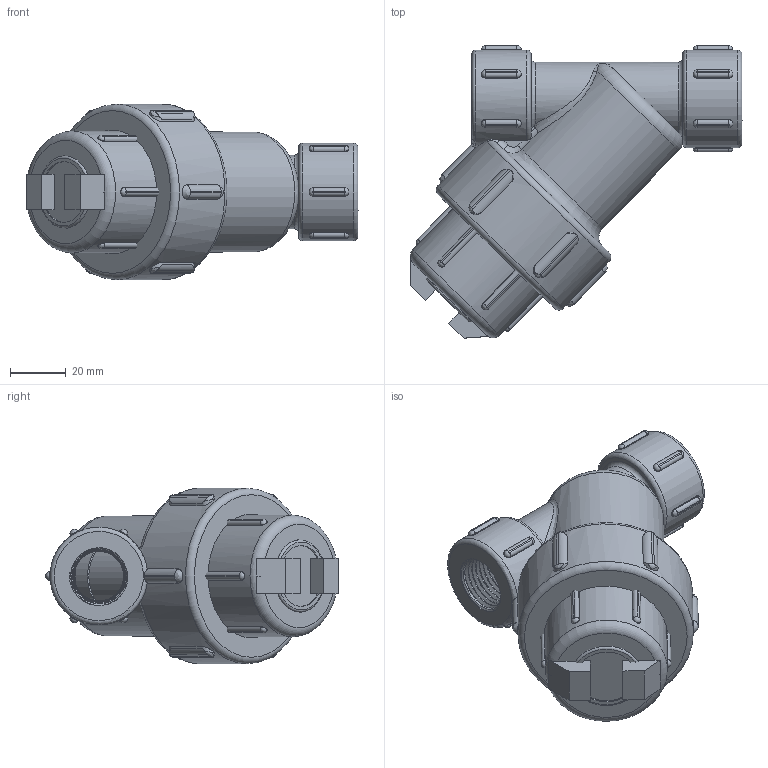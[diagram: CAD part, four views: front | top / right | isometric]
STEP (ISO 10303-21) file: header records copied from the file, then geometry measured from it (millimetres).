
FILE_DESCRIPTION(/* description */ ('Alibre Inc.'),/* implementation_level */ '2;1');
FILE_NAME(/* name */ 'export0',/* time_stamp */ '2016-10-25T10:42:31-04:00',/* author */ (''),/* organization */ (''),/* preprocessor_version */ 'ST-DEVELOPER v14',/* originating_system */ 'Alibre',/* authorisation */ '');
FILE_SCHEMA (('CONFIG_CONTROL_DESIGN'));
Length unit declared in the file: centimetre
Products named in the file (7): ID_3; ID_1; ID_2; ID_4; ID_5
Bounding box: 119.16 x 104.93 x 62.99 mm (x, y, z)
Volume: 145501.6 mm3; surface area: 78600.6 mm2
Topology: 6 solids, 6 shells, 422 faces, 1058 edges, 667 vertices
Faces by surface type: cylinder 154, plane 131, cone 56, torus 50, bspline 25, sphere 6
Full cylindrical faces by diameter (mm): 17.78 x2, 21.844 x2, 24.384 x1, 24.638 x3, 25.908 x2, 27.838 x1, 35.052 x2, 37.211 x1, 43.688 x4, 44.45 x2, 62.992 x1
Entity records: 61654 total; most frequent: CARTESIAN_POINT 52010, ORIENTED_EDGE 1970, DIRECTION 1562, EDGE_CURVE 983, AXIS2_PLACEMENT_3D 675, VERTEX_POINT 638, FACE_BOUND 474, EDGE_LOOP 471
